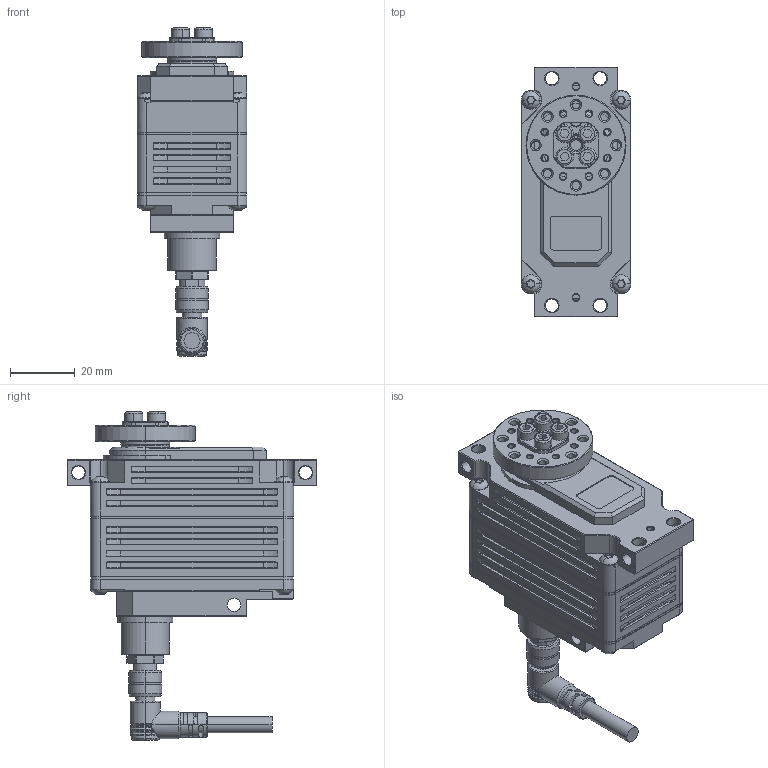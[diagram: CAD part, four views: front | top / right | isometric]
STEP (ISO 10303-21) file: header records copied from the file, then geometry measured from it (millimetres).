
FILE_DESCRIPTION (( 'STEP AP203' ), '1' );
FILE_NAME ('BLA34-12U-AB1(3D)_ANGLE-CABLE.STEP', '2025-06-10T05:37:25', ( '' ), ( '' ), 'SwSTEP 2.0', 'SolidWorks 2023', '' );
FILE_SCHEMA (( 'CONFIG_CONTROL_DESIGN' ));
Length unit declared in the file: millimetre
Products named in the file (6): SPRING-PIN_2.5x10; CABLE_BE0011(M8-ANGLE); BLA34-12U-AB1(3D)_ANGLE-CABLE; SERVO_HORN; SCREW_M3x12; BLA34-12U-AB1
Assembly tree (11 placements, depth 2):
  BLA34-12U-AB1(3D)_ANGLE-CABLE
    BLA34-12U-AB1
    SERVO_HORN
    SPRING-PIN_2.5x10  x4
    SCREW_M3x12  x4
    CABLE_BE0011(M8-ANGLE)
Bounding box: 34 x 77.4 x 101.7 mm (x, y, z)
Volume: 107422.6 mm3; surface area: 25110.6 mm2
Topology: 11 solids, 11 shells, 1439 faces, 3655 edges, 2306 vertices
Faces by surface type: cylinder 704, plane 386, cone 189, torus 120, bspline 40
Entity records: 39745 total; most frequent: CARTESIAN_POINT 9913, DIRECTION 6199, ORIENTED_EDGE 6082, EDGE_CURVE 3041, AXIS2_PLACEMENT_3D 2471, VERTEX_POINT 1896, EDGE_LOOP 1347, CIRCLE 1274
